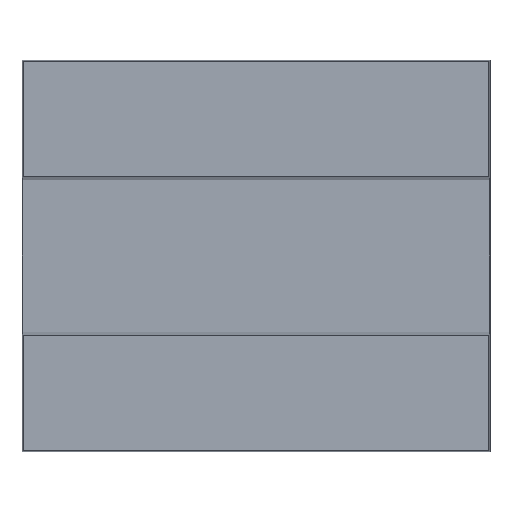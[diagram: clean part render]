
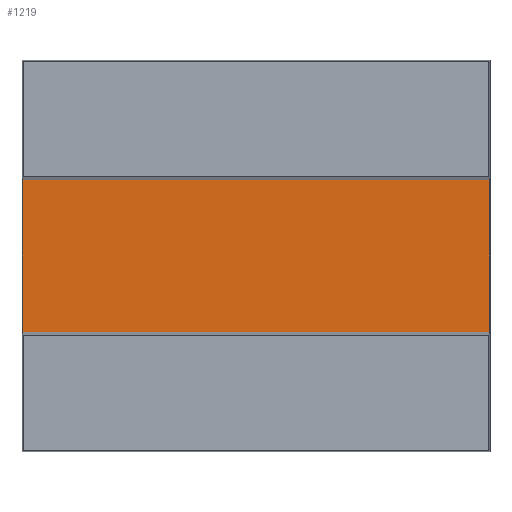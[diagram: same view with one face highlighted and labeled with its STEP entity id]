
A CAD part, front view. The second image highlights one B-rep face of the part: STEP entity #1219.
In plain terms, the highlighted planar face has unit normal (0, -1, 0).
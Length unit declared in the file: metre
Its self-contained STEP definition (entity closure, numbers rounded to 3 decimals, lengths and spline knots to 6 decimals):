
#129=ORIENTED_EDGE('',*,*,#437,.T.);
#130=ORIENTED_EDGE('',*,*,#428,.T.);
#131=ORIENTED_EDGE('',*,*,#438,.F.);
#132=ORIENTED_EDGE('',*,*,#410,.F.);
#410=EDGE_CURVE('',#575,#576,#688,.F.);
#428=EDGE_CURVE('',#583,#586,#706,.T.);
#437=EDGE_CURVE('',#575,#583,#715,.T.);
#438=EDGE_CURVE('',#576,#586,#716,.T.);
#575=VERTEX_POINT('',#1708);
#576=VERTEX_POINT('',#1710);
#583=VERTEX_POINT('',#1732);
#586=VERTEX_POINT('',#1739);
#688=LINE('',#1709,#832);
#706=LINE('',#1740,#850);
#715=LINE('',#1757,#859);
#716=LINE('',#1759,#860);
#832=VECTOR('',#1406,1.);
#850=VECTOR('',#1428,1.);
#859=VECTOR('',#1445,1.);
#860=VECTOR('',#1448,1.);
#965=EDGE_LOOP('',(#129,#130,#131,#132));
#1063=FACE_BOUND('',#965,.T.);
#1161=PLANE('',#1309);
#1219=ADVANCED_FACE('',(#1063),#1161,.F.);
#1309=AXIS2_PLACEMENT_3D('',#1760,#1449,#1450);
#1406=DIRECTION('',(0.,0.,1.));
#1428=DIRECTION('',(0.,0.,-1.));
#1445=DIRECTION('',(-1.,0.,0.));
#1448=DIRECTION('',(-1.,0.,0.));
#1449=DIRECTION('',(0.,1.,0.));
#1450=DIRECTION('',(0.,0.,1.));
#1708=CARTESIAN_POINT('',(0.053579,-0.0098,0.0175));
#1709=CARTESIAN_POINT('',(0.053579,-0.0098,-0.045));
#1710=CARTESIAN_POINT('',(0.053579,-0.0098,-0.0175));
#1732=CARTESIAN_POINT('',(-0.053579,-0.0098,0.0175));
#1739=CARTESIAN_POINT('',(-0.053579,-0.0098,-0.0175));
#1740=CARTESIAN_POINT('',(-0.053579,-0.0098,-0.045));
#1757=CARTESIAN_POINT('',(0.155342,-0.0098,0.0175));
#1759=CARTESIAN_POINT('',(0.155342,-0.0098,-0.0175));
#1760=CARTESIAN_POINT('',(0.155342,-0.0098,0.));
